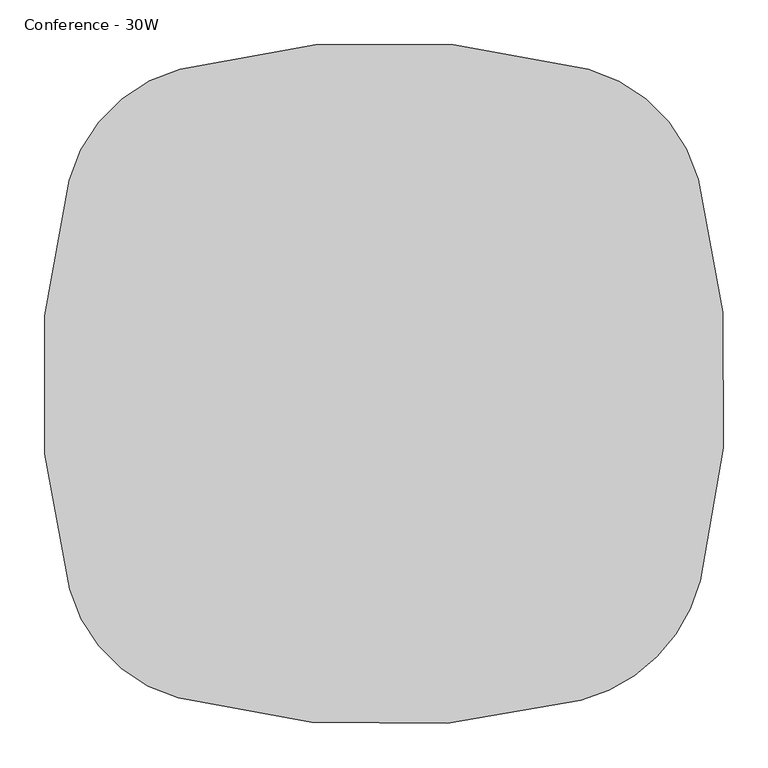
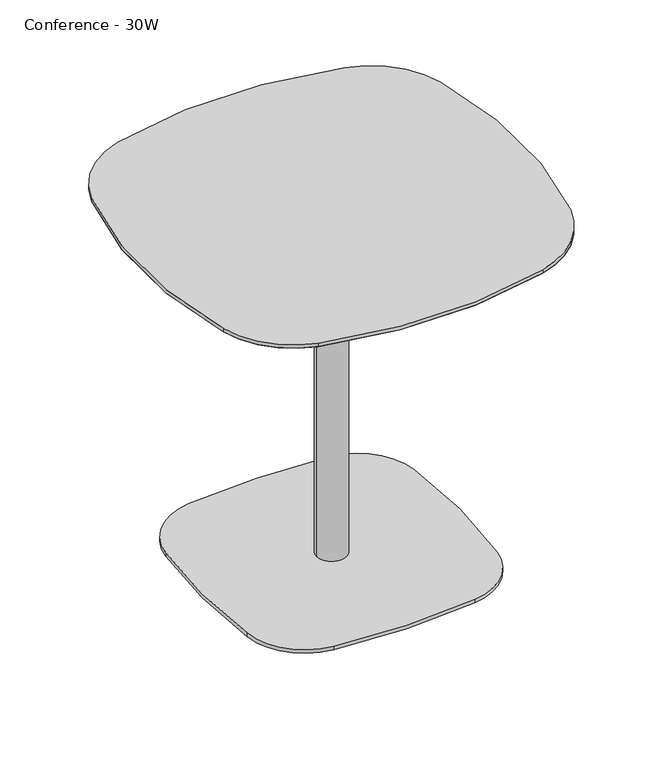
"""IFC4 building model written with IfcOpenShell, lengths in millimetres: furniture geometry, Steelcase Coalesse - Enea Lottus - Table - Square : Conference - 30W."""

from ifc_helpers import new_model, si_unit, point, frame, frame_2d, origin, origin_with_axes, place, context, project, spatial, polyline, circle_curve, trimmed, segment, composite_curve, outline, extrude, source, transform, mapped, element, save
from ifc_brep_helpers import plane_surface, cylinder_surface, revolved_surface, advanced_brep


def conference_30w_a5f9ca41(model_context):
    return source(origin(), model_context, "Body", "SolidModel", [
        extrude(outline(composite_curve([segment(trimmed(circle_curve(frame_2d((1509.974368, -376.5071652)), 1236.7220061), [point((281.8032791, -521.686698))], [point((280.9377567, -238.8469734))], False, "CARTESIAN"), True, "CONTINUOUS"), segment(trimmed(circle_curve(frame_2d((403.4276894, -252.5666523)), 123.2558851), [point((280.9377567, -238.8469734))], [point((389.5003313, -130.1001593))], False, "CARTESIAN"), True, "CONTINUOUS"), segment(trimmed(circle_curve(frame_2d((535.9787354, -1418.1187653)), 1296.3208909), [point((389.5003313, -130.1001593))], [point((674.0926007, -129.1764033))], False, "CARTESIAN"), True, "CONTINUOUS"), segment(trimmed(circle_curve(frame_2d((660.9484872, -251.8433394)), 123.3691409), [point((674.0926007, -129.1764033))], [point((783.3147441, -236.1448012))], False, "CARTESIAN"), True, "CONTINUOUS"), segment(trimmed(circle_curve(frame_2d((-345.1979189, -380.9232688)), 1137.7616777), [point((783.3147441, -236.1448012))], [point((783.0746872, -527.5607862))], False, "CARTESIAN"), True, "CONTINUOUS"), segment(trimmed(circle_curve(frame_2d((663.5787703, -512.0303333)), 120.5009093), [point((783.0746872, -527.5607862))], [point((677.7892611, -631.690398))], False, "CARTESIAN"), True, "CONTINUOUS"), segment(trimmed(circle_curve(frame_2d((533.4838484, 583.4396946)), 1223.6687436), [point((677.7892611, -631.690398))], [point((392.423073, -632.0713303))], False, "CARTESIAN"), True, "CONTINUOUS"), segment(trimmed(circle_curve(frame_2d((406.9500507, -506.8933602)), 126.0180832), [point((392.423073, -632.0713303))], [point((281.8032791, -521.686698))], False, "CARTESIAN"), True, "CONTINUOUS")], self_intersect=False)), frame((0.0, 0.0, 15.8781503), z_axis=(0.0, 0.0, 1.0), x_axis=(1.0, 0.0, 0.0)), (0.0, 0.0, 1.0), 7.874),
        advanced_brep(
        [(533.4, -350.5200727, 725.3266087), (533.4, -411.4799273, 725.3266087), (533.4, -381.0, 725.3266087), (533.4, -205.0011497, 745.8647446), (533.4, -556.9988503, 745.8647446), (533.4, -205.0011497, 749.2282142), (533.4, -556.9988503, 749.2282142), (533.4, -381.0, 749.2282142)],
        [
            (0, 1, circle_curve(frame((533.4, -381.0, 725.3266087), z_axis=(0.0, 0.0, -1.0), x_axis=(0.0, -1.0, 0.0)), 30.4799273)),
            (1, 2),
            (2, 0),
            (1, 0, circle_curve(frame((533.4, -381.0, 725.3266087), z_axis=(0.0, 0.0, -1.0), x_axis=(0.0, -1.0, 0.0)), 30.4799273)),
            (3, 4, circle_curve(frame((533.4, -381.0, 745.8647446), z_axis=(0.0, 0.0, -1.0), x_axis=(0.0, -1.0, 0.0)), 175.9988503)),
            (4, 1),
            (0, 3),
            (4, 3, circle_curve(frame((533.4, -381.0, 745.8647446), z_axis=(0.0, 0.0, -1.0), x_axis=(0.0, -1.0, 0.0)), 175.9988503)),
            (5, 6, circle_curve(frame((533.4, -381.0, 749.2282142), z_axis=(0.0, 0.0, -1.0), x_axis=(0.0, -1.0, 0.0)), 175.9988503)),
            (6, 4),
            (3, 5),
            (6, 5, circle_curve(frame((533.4, -381.0, 749.2282142), z_axis=(0.0, 0.0, -1.0), x_axis=(0.0, -1.0, 0.0)), 175.9988503)),
            (7, 6),
            (5, 7),
        ],
        [
            plane_surface(frame((533.4, -381.0, 725.3266087), z_axis=(0.0, 0.0, -1.0), x_axis=(0.0, -1.0, 0.0))),
            revolved_surface(polyline([(533.4, -411.4799273, 725.3266087), (533.4, -556.9988503, 745.8647446)]), (533.4, -381.0, 787.3282142), (0.0, 0.0, 1.0)),
            cylinder_surface(frame((533.4, -381.0, 787.3282142), z_axis=(0.0, 0.0, 1.0), x_axis=(0.0, -1.0, 0.0)), 175.9988503),
            plane_surface(frame((533.4, -381.0, 749.2282142), z_axis=(0.0, 0.0, 1.0), x_axis=(0.0, -1.0, 0.0))),
        ],
        [
            (0, [[1, 2, 3]]),
            (0, [[4, -3, -2]]),
            (1, [[5, 6, -1, 7]]),
            (1, [[8, -7, -4, -6]]),
            (2, [[9, 10, -5, 11]]),
            (2, [[12, -11, -8, -10]]),
            (3, [[13, -9, 14]]),
            (3, [[-14, -12, -13]]),
        ],
    ),
        extrude(outline(composite_curve([segment(trimmed(circle_curve(frame_2d((353.2869629, -200.285207)), 14.3047847), [point((367.5917475, -200.285207))], [point((338.9821782, -200.285207))], False, "CARTESIAN"), True, "CONTINUOUS"), segment(trimmed(circle_curve(frame_2d((353.2869629, -200.285207)), 14.3047847), [point((338.9821782, -200.285207))], [point((367.5917475, -200.285207))], False, "CARTESIAN"), True, "CONTINUOUS")], self_intersect=False)), origin_with_axes(), (0.0, 0.0, 1.0), 15.8781503),
        extrude(outline(composite_curve([segment(trimmed(circle_curve(frame_2d((713.7150647, -200.3948589)), 14.5554969), [point((728.2705616, -200.3948589))], [point((699.1595678, -200.3948589))], False, "CARTESIAN"), True, "CONTINUOUS"), segment(trimmed(circle_curve(frame_2d((713.7150647, -200.3948589)), 14.5554969), [point((699.1595678, -200.3948589))], [point((728.2705616, -200.3948589))], False, "CARTESIAN"), True, "CONTINUOUS")], self_intersect=False)), origin_with_axes(), (0.0, 0.0, 1.0), 15.8781503),
        extrude(outline(composite_curve([segment(trimmed(circle_curve(frame_2d((353.2758907, -561.3730895)), 14.3157366), [point((367.5916274, -561.3730895))], [point((338.9601541, -561.3730895))], False, "CARTESIAN"), True, "CONTINUOUS"), segment(trimmed(circle_curve(frame_2d((353.2758907, -561.3730895)), 14.3157366), [point((338.9601541, -561.3730895))], [point((367.5916274, -561.3730895))], False, "CARTESIAN"), True, "CONTINUOUS")], self_intersect=False)), origin_with_axes(), (0.0, 0.0, 1.0), 15.8781503),
        extrude(outline(composite_curve([segment(trimmed(circle_curve(frame_2d((713.9832703, -561.2887538)), 14.2874246), [point((728.2706949, -561.2887538))], [point((699.6958457, -561.2887538))], False, "CARTESIAN"), True, "CONTINUOUS"), segment(trimmed(circle_curve(frame_2d((713.9832703, -561.2887538)), 14.2874246), [point((699.6958457, -561.2887538))], [point((728.2706949, -561.2887538))], False, "CARTESIAN"), True, "CONTINUOUS")], self_intersect=False)), origin_with_axes(), (0.0, 0.0, 1.0), 15.8781503),
        extrude(outline(composite_curve([segment(trimmed(circle_curve(frame_2d((533.4002907, -380.9999273)), 30.48), [point((563.8802907, -380.9999273))], [point((502.9202907, -380.9999273))], False, "CARTESIAN"), True, "CONTINUOUS"), segment(trimmed(circle_curve(frame_2d((533.4002907, -380.9999273)), 30.48), [point((502.9202907, -380.9999273))], [point((563.8802907, -380.9999273))], False, "CARTESIAN"), True, "CONTINUOUS")], self_intersect=False)), frame((0.0, 0.0, 23.7521503), z_axis=(0.0, 0.0, 1.0), x_axis=(1.0, 0.0, 0.0)), (0.0, 0.0, 1.0), 701.5744584),
        advanced_brep(
        [(759.5492277, -41.3530981, 749.2282142), (873.5559937, -155.359864, 749.2282142), (875.7614957, -598.4783496, 749.2282142), (751.3874413, -722.852404, 749.2282142), (307.2348477, -720.3612291, 749.2282142), (194.5478627, -607.6742441, 749.2282142), (193.914801, -156.6242899, 749.2282142), (309.5333817, -41.0057092, 749.2282142), (762.9232121, -29.1094781, 754.447009), (306.1783042, -28.7568947, 754.447009), (181.6659865, -153.2692125, 754.447009), (182.3085144, -611.0636914, 754.447009), (303.8454004, -732.6005774, 754.447009), (754.639383, -735.1290027, 754.447009), (888.0380944, -601.7302912, 754.447009), (885.7996136, -151.9858797, 754.447009)],
        [
            (0, 1, circle_curve(frame((716.1813757, -198.7277161, 749.2282142), z_axis=(0.0, 0.0, -1.0), x_axis=(0.2656680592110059, 0.9640645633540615, 0.0)), 163.2407454)),
            (1, 2, circle_curve(frame((54.7460103, -381.0, 749.2282142), z_axis=(0.0, 0.0, -1.0), x_axis=(0.9640645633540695, 0.265668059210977, 0.0)), 849.3310661)),
            (2, 3, circle_curve(frame((706.5705403, -553.6614486, 749.2282142), z_axis=(0.0, 0.0, -1.0), x_axis=(0.9666613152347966, -0.25605839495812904, 0.0)), 175.0260952)),
            (3, 4, circle_curve(frame((533.9090918, 98.1630815, 749.2282142), z_axis=(0.0, 0.0, -1.0), x_axis=(0.2560583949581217, -0.9666613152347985, 0.0)), 849.3310661)),
            (4, 5, circle_curve(frame((350.3931383, -564.5159535, 749.2282142), z_axis=(0.0, 0.0, -1.0), x_axis=(-0.2668856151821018, -0.9637282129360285, 0.0)), 161.7108158)),
            (5, 6, circle_curve(frame((1013.0721732, -381.0000001, 749.2282131), z_axis=(-1.3376082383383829e-09, 0.0, -1.0), x_axis=(-0.9637282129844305, -0.2668856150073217, 1.289083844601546e-09)), 849.3310661)),
            (6, 7, circle_curve(frame((353.1493887, -200.2402969, 749.2282142), z_axis=(0.0, -2.4166533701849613e-11, -1.0), x_axis=(-0.9644735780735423, 0.26417932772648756, -6.3843068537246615e-12)), 165.1)),
            (7, 0, circle_curve(frame((533.9090918, -860.1630815, 749.2282142), z_axis=(0.0, -1.7896332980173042e-12, -1.0), x_axis=(-0.2641793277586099, 0.9644735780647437, -1.7226189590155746e-12)), 849.3310661)),
            (8, 9, circle_curve(frame((533.9090918, -860.1630815, 754.447009), z_axis=(0.0, 1.7896332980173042e-12, 1.0), x_axis=(-0.2641793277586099, 0.9644735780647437, -1.7226189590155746e-12)), 862.0310661)),
            (9, 10, circle_curve(frame((353.1493887, -200.2402969, 754.447009), z_axis=(0.0, 2.4166533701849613e-11, 1.0), x_axis=(-0.9644735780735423, 0.26417932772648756, -6.3843068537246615e-12)), 177.8)),
            (10, 11, circle_curve(frame((1013.0721733, -381.0000001, 754.4470079), z_axis=(1.3376082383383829e-09, 0.0, 1.0), x_axis=(-0.9637282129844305, -0.2668856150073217, 1.289083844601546e-09)), 862.0310661)),
            (11, 12, circle_curve(frame((350.3931383, -564.5159535, 754.447009), z_axis=(0.0, 0.0, 1.0), x_axis=(-0.2668856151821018, -0.9637282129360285, 0.0)), 174.4108158)),
            (12, 13, circle_curve(frame((533.9090918, 98.1630815, 754.447009), z_axis=(0.0, 0.0, 1.0), x_axis=(0.2560583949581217, -0.9666613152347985, 0.0)), 862.0310661)),
            (13, 14, circle_curve(frame((706.5705403, -553.6614486, 754.447009), z_axis=(0.0, 0.0, 1.0), x_axis=(0.9666613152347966, -0.25605839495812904, 0.0)), 187.7260952)),
            (14, 15, circle_curve(frame((54.7460103, -381.0, 754.447009), z_axis=(0.0, 0.0, 1.0), x_axis=(0.9640645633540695, 0.265668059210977, 0.0)), 862.0310661)),
            (15, 8, circle_curve(frame((716.1813757, -198.7277161, 754.447009), z_axis=(0.0, 0.0, 1.0), x_axis=(0.2656680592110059, 0.9640645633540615, 0.0)), 175.9407454)),
            (15, 1),
            (0, 8),
            (14, 2),
            (13, 3),
            (12, 4),
            (11, 5),
            (10, 6),
            (9, 7),
        ],
        [
            plane_surface(frame((533.1856314, -380.4636485, 749.2282142), z_axis=(0.0, 0.0, -1.0), x_axis=(-0.264179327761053, -0.9644735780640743, 0.0))),
            plane_surface(frame((533.1748136, -380.4556285, 754.447009), z_axis=(0.0, 0.0, 1.0), x_axis=(-0.264179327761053, -0.9644735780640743, 0.0))),
            revolved_surface(polyline([(759.5492277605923, -41.35309800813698, 749.2282142), (762.9232121, -29.10947809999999, 754.447009)]), (716.1813757, -198.7277161, 682.1479026), (0.0, 0.0, 1.0)),
            revolved_surface(polyline([(873.5559936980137, -155.35986403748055, 749.2282142), (885.7996136, -151.9858797, 754.447009)]), (54.7460103, -381.0, 400.2136811), (0.0, 0.0, 1.0)),
            revolved_surface(polyline([(875.7614957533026, -598.4783496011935, 749.2282142), (888.0380944, -601.7302912, 754.447009)]), (706.5705403, -553.6614486, 677.3049638), (0.0, 0.0, 1.0)),
            revolved_surface(polyline([(751.387441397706, -722.8524040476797, 749.2282142), (754.639383, -735.1290027, 754.447009)]), (533.9090918, 98.1630815, 400.2136811), (0.0, 0.0, 1.0)),
            revolved_surface(polyline([(307.234847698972, -720.3612291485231, 749.2282142), (303.8454004, -732.6005774, 754.447009)]), (350.3931383, -564.5159535, 682.7765946), (0.0, 0.0, 1.0)),
            revolved_surface(polyline([(194.54786266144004, -607.6742440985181, 749.2282141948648), (182.3085143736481, -611.0636914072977, 754.4470090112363)]), (1013.0721728, -381.0000001, 400.2136812), (1.3376082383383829e-09, 0.0, 1.0)),
            revolved_surface(polyline([(193.91480089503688, -156.6242899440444, 749.228214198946), (181.66598649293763, -153.26921249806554, 754.447009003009)]), (353.1493887, -200.2402969, 681.3838815), (0.0, 2.4166533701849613e-11, 1.0)),
            revolved_surface(polyline([(309.53338164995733, -41.00570909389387, 749.228214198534), (306.1783042, -28.756894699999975, 754.447009)]), (533.9090918, -860.1630815, 400.2136811), (0.0, 1.7896332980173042e-12, 1.0)),
        ],
        [
            (0, [[1, 2, 3, 4, 5, 6, 7, 8]]),
            (1, [[9, 10, 11, 12, 13, 14, 15, 16]]),
            (2, [[-16, 17, -1, 18]]),
            (3, [[-15, 19, -2, -17]]),
            (4, [[-14, 20, -3, -19]]),
            (5, [[-13, 21, -4, -20]]),
            (6, [[-12, 22, -5, -21]]),
            (7, [[-11, 23, -6, -22]]),
            (8, [[-10, 24, -7, -23]]),
            (9, [[-9, -18, -8, -24]]),
        ],
    ),
        extrude(outline(composite_curve([segment(trimmed(circle_curve(frame_2d((706.5705403, -553.6614486)), 187.7260952), [point((888.0380944, -601.7302912))], [point((754.639383, -735.1290027))], False, "CARTESIAN"), True, "CONTINUOUS"), segment(trimmed(circle_curve(frame_2d((533.9090918, 98.1630815)), 862.0310661), [point((754.639383, -735.1290027))], [point((303.8454004, -732.6005774))], False, "CARTESIAN"), True, "CONTINUOUS"), segment(trimmed(circle_curve(frame_2d((350.3931383, -564.5159535)), 174.4108158), [point((303.8454004, -732.6005774))], [point((182.3085144, -611.0636914))], False, "CARTESIAN"), True, "CONTINUOUS"), segment(trimmed(circle_curve(frame_2d((1013.0721732, -381.0)), 862.0310661), [point((182.3085144, -611.0636914))], [point((181.6659865, -153.2692125))], False, "CARTESIAN"), True, "CONTINUOUS"), segment(trimmed(circle_curve(frame_2d((353.1493887, -200.2402969)), 177.8), [point((181.6659865, -153.2692125))], [point((306.1783042, -28.7568947))], False, "CARTESIAN"), True, "CONTINUOUS"), segment(trimmed(circle_curve(frame_2d((533.9090918, -860.1630815)), 862.0310661), [point((306.1783042, -28.7568947))], [point((762.9232121, -29.1094781))], False, "CARTESIAN"), True, "CONTINUOUS"), segment(trimmed(circle_curve(frame_2d((716.1813757, -198.7277161)), 175.9407454), [point((762.9232121, -29.1094781))], [point((885.7996136, -151.9858797))], False, "CARTESIAN"), True, "CONTINUOUS"), segment(trimmed(circle_curve(frame_2d((54.7460103, -381.0)), 862.0310661), [point((885.7996136, -151.9858797))], [point((888.0380944, -601.7302912))], False, "CARTESIAN"), True, "CONTINUOUS")], self_intersect=False)), frame((0.0, 0.0, 754.447009), z_axis=(0.0, 0.0, 1.0), x_axis=(1.0, 0.0, 0.0)), (0.0, 0.0, 1.0), 7.552991),
    ])


if __name__ == "__main__":
    model = new_model("IFC4")
    model_context = context("Model", 3, world=origin())
    ifc_project = project(units=[si_unit("LENGTHUNIT", "METRE", prefix="MILLI")], contexts=[model_context])
    site = spatial("IfcSite", under=ifc_project)
    building = spatial("IfcBuilding", under=site)
    placement = place(None, origin())
    conference_30w_shape = conference_30w_a5f9ca41(model_context)
    element("IfcFurniture", 1, ObjectType="Steelcase Coalesse - Enea Lottus - Table - Square : Conference - 30W", at=placement, inside=building, context=model_context, shape_type="MappedRepresentation", body=[
        mapped(conference_30w_shape, transform((0.0, 0.0, 0.0), x_axis=(1.0, 0.0, 0.0), y_axis=(0.0, 1.0, 0.0), z_axis=(0.0, 0.0, 1.0))),
    ])
    save(model, "model.ifc")
